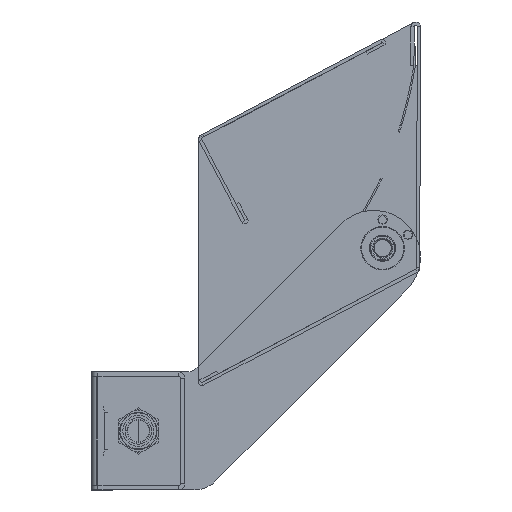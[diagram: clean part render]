
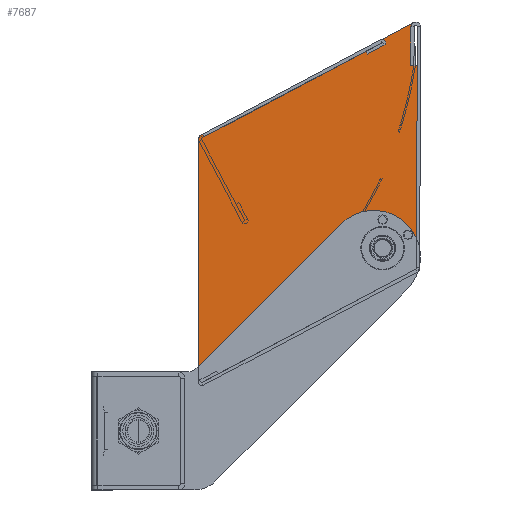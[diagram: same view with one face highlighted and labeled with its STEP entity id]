
A CAD part, left-side view. The second image highlights one B-rep face of the part: STEP entity #7687.
In plain terms, the highlighted planar face has unit normal (-1, 0, 0) as drawn and (0, 0, -1) by its records, which use the part's own axes.
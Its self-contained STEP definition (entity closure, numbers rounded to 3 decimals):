
#373=FACE_BOUND('',#1442,.T.);
#374=FACE_BOUND('',#1443,.T.);
#588=PLANE('',#8936);
#955=FACE_OUTER_BOUND('',#1441,.T.);
#1441=EDGE_LOOP('',(#6291,#6292,#6293,#6294,#6295,#6296,#6297,#6298,#6299,
#6300,#6301,#6302,#6303,#6304,#6305,#6306,#6307,#6308));
#1442=EDGE_LOOP('',(#6309));
#1443=EDGE_LOOP('',(#6310));
#2066=LINE('',#12886,#2705);
#2070=LINE('',#12898,#2709);
#2073=LINE('',#12904,#2712);
#2076=LINE('',#12911,#2715);
#2080=LINE('',#12919,#2719);
#2084=LINE('',#12931,#2723);
#2088=LINE('',#12943,#2727);
#2091=LINE('',#12949,#2730);
#2094=LINE('',#12955,#2733);
#2097=LINE('',#12961,#2736);
#2100=LINE('',#12966,#2739);
#2104=LINE('',#12973,#2743);
#2106=LINE('',#12980,#2745);
#2705=VECTOR('',#10686,10.);
#2709=VECTOR('',#10698,10.);
#2712=VECTOR('',#10703,10.);
#2715=VECTOR('',#10708,10.);
#2719=VECTOR('',#10714,10.);
#2723=VECTOR('',#10726,10.);
#2727=VECTOR('',#10738,10.);
#2730=VECTOR('',#10743,10.);
#2733=VECTOR('',#10748,10.);
#2736=VECTOR('',#10753,10.);
#2739=VECTOR('',#10758,10.);
#2743=VECTOR('',#10764,10.);
#2745=VECTOR('',#10772,10.);
#3078=CIRCLE('',#8902,1.5);
#3081=CIRCLE('',#8906,4.1);
#3082=CIRCLE('',#8908,1.5);
#3084=CIRCLE('',#8912,1.025);
#3086=CIRCLE('',#8919,1.5);
#3088=CIRCLE('',#8923,1.025);
#3091=CIRCLE('',#8935,0.5);
#3606=VERTEX_POINT('',#12864);
#3609=VERTEX_POINT('',#12872);
#3610=VERTEX_POINT('',#12876);
#3611=VERTEX_POINT('',#12877);
#3614=VERTEX_POINT('',#12885);
#3616=VERTEX_POINT('',#12891);
#3618=VERTEX_POINT('',#12897);
#3620=VERTEX_POINT('',#12903);
#3622=VERTEX_POINT('',#12909);
#3623=VERTEX_POINT('',#12910);
#3626=VERTEX_POINT('',#12918);
#3628=VERTEX_POINT('',#12924);
#3630=VERTEX_POINT('',#12930);
#3632=VERTEX_POINT('',#12936);
#3634=VERTEX_POINT('',#12942);
#3636=VERTEX_POINT('',#12948);
#3638=VERTEX_POINT('',#12954);
#3640=VERTEX_POINT('',#12960);
#3643=VERTEX_POINT('',#12971);
#3645=VERTEX_POINT('',#12979);
#4509=EDGE_CURVE('',#3606,#3606,#3078,.T.);
#4514=EDGE_CURVE('',#3609,#3609,#3081,.T.);
#4515=EDGE_CURVE('',#3610,#3611,#3082,.T.);
#4519=EDGE_CURVE('',#3611,#3614,#2066,.T.);
#4522=EDGE_CURVE('',#3614,#3616,#3084,.T.);
#4525=EDGE_CURVE('',#3616,#3618,#2070,.T.);
#4528=EDGE_CURVE('',#3618,#3620,#2073,.T.);
#4531=EDGE_CURVE('',#3622,#3623,#2076,.T.);
#4535=EDGE_CURVE('',#3623,#3626,#2080,.T.);
#4538=EDGE_CURVE('',#3626,#3628,#3086,.T.);
#4541=EDGE_CURVE('',#3628,#3630,#2084,.T.);
#4544=EDGE_CURVE('',#3630,#3632,#3088,.T.);
#4547=EDGE_CURVE('',#3632,#3634,#2088,.T.);
#4550=EDGE_CURVE('',#3634,#3636,#2091,.T.);
#4553=EDGE_CURVE('',#3636,#3638,#2094,.T.);
#4556=EDGE_CURVE('',#3638,#3640,#2097,.T.);
#4559=EDGE_CURVE('',#3640,#3610,#2100,.T.);
#4563=EDGE_CURVE('',#3643,#3620,#2104,.T.);
#4566=EDGE_CURVE('',#3622,#3645,#2106,.T.);
#4568=EDGE_CURVE('',#3645,#3643,#3091,.T.);
#6291=ORIENTED_EDGE('',*,*,#4528,.T.);
#6292=ORIENTED_EDGE('',*,*,#4563,.F.);
#6293=ORIENTED_EDGE('',*,*,#4568,.F.);
#6294=ORIENTED_EDGE('',*,*,#4566,.F.);
#6295=ORIENTED_EDGE('',*,*,#4531,.T.);
#6296=ORIENTED_EDGE('',*,*,#4535,.T.);
#6297=ORIENTED_EDGE('',*,*,#4538,.T.);
#6298=ORIENTED_EDGE('',*,*,#4541,.T.);
#6299=ORIENTED_EDGE('',*,*,#4544,.T.);
#6300=ORIENTED_EDGE('',*,*,#4547,.T.);
#6301=ORIENTED_EDGE('',*,*,#4550,.T.);
#6302=ORIENTED_EDGE('',*,*,#4553,.T.);
#6303=ORIENTED_EDGE('',*,*,#4556,.T.);
#6304=ORIENTED_EDGE('',*,*,#4559,.T.);
#6305=ORIENTED_EDGE('',*,*,#4515,.T.);
#6306=ORIENTED_EDGE('',*,*,#4519,.T.);
#6307=ORIENTED_EDGE('',*,*,#4522,.T.);
#6308=ORIENTED_EDGE('',*,*,#4525,.T.);
#6309=ORIENTED_EDGE('',*,*,#4509,.T.);
#6310=ORIENTED_EDGE('',*,*,#4514,.T.);
#7687=ADVANCED_FACE('',(#955,#373,#374),#588,.F.);
#8902=AXIS2_PLACEMENT_3D('',#12865,#10664,#10665);
#8906=AXIS2_PLACEMENT_3D('',#12874,#10674,#10675);
#8908=AXIS2_PLACEMENT_3D('',#12878,#10678,#10679);
#8912=AXIS2_PLACEMENT_3D('',#12892,#10691,#10692);
#8919=AXIS2_PLACEMENT_3D('',#12925,#10719,#10720);
#8923=AXIS2_PLACEMENT_3D('',#12937,#10731,#10732);
#8935=AXIS2_PLACEMENT_3D('',#12983,#10776,#10777);
#8936=AXIS2_PLACEMENT_3D('',#12984,#10778,#10779);
#10664=DIRECTION('center_axis',(0.,0.,1.));
#10665=DIRECTION('ref_axis',(1.,0.,0.));
#10674=DIRECTION('center_axis',(0.,0.,1.));
#10675=DIRECTION('ref_axis',(1.,0.,0.));
#10678=DIRECTION('center_axis',(0.,0.,-1.));
#10679=DIRECTION('ref_axis',(0.,-1.,0.));
#10686=DIRECTION('',(0.883,0.469,0.));
#10691=DIRECTION('center_axis',(0.,0.,1.));
#10692=DIRECTION('ref_axis',(1.,0.,0.));
#10698=DIRECTION('',(0.,-1.,0.));
#10703=DIRECTION('',(1.,0.,0.));
#10708=DIRECTION('',(-0.469,0.883,0.));
#10714=DIRECTION('',(-0.883,-0.469,0.));
#10719=DIRECTION('center_axis',(0.,0.,1.));
#10720=DIRECTION('ref_axis',(-0.469,0.883,0.));
#10726=DIRECTION('',(0.,1.,0.));
#10731=DIRECTION('center_axis',(0.,0.,1.));
#10732=DIRECTION('ref_axis',(-1.,0.,0.));
#10738=DIRECTION('',(0.,1.,0.));
#10743=DIRECTION('',(-1.,0.,0.));
#10748=DIRECTION('',(0.,1.,0.));
#10753=DIRECTION('',(-1.,0.,0.));
#10758=DIRECTION('',(0.,1.,0.));
#10764=DIRECTION('',(0.,1.,0.));
#10772=DIRECTION('',(0.883,0.469,0.));
#10776=DIRECTION('center_axis',(0.,0.,1.));
#10777=DIRECTION('ref_axis',(0.857,-0.515,0.));
#10778=DIRECTION('center_axis',(0.,0.,1.));
#10779=DIRECTION('ref_axis',(1.,0.,0.));
#12864=CARTESIAN_POINT('',(-12.5,-2.641,0.));
#12865=CARTESIAN_POINT('Origin',(-11.,-2.641,0.));
#12872=CARTESIAN_POINT('',(-15.1,6.609,0.));
#12874=CARTESIAN_POINT('Origin',(-11.,6.609,0.));
#12876=CARTESIAN_POINT('',(-70.516,41.153,0.));
#12877=CARTESIAN_POINT('',(-69.72,42.478,0.));
#12878=CARTESIAN_POINT('Origin',(-69.016,41.153,0.));
#12885=CARTESIAN_POINT('',(-0.506,79.279,0.));
#12886=CARTESIAN_POINT('',(-26.109,65.666,0.));
#12891=CARTESIAN_POINT('',(-1.05,78.374,0.));
#12892=CARTESIAN_POINT('Origin',(-0.025,78.374,0.));
#12897=CARTESIAN_POINT('',(-1.05,72.399,0.));
#12898=CARTESIAN_POINT('',(-1.05,46.81,0.));
#12903=CARTESIAN_POINT('',(0.,72.399,0.));
#12904=CARTESIAN_POINT('',(-17.659,72.399,0.));
#12909=CARTESIAN_POINT('',(-57.744,-30.703,0.));
#12910=CARTESIAN_POINT('',(-58.683,-28.937,0.));
#12911=CARTESIAN_POINT('',(-66.504,-14.228,0.));
#12918=CARTESIAN_POINT('',(-69.72,-34.806,0.));
#12919=CARTESIAN_POINT('',(-44.698,-21.501,0.));
#12924=CARTESIAN_POINT('',(-70.516,-36.13,0.));
#12925=CARTESIAN_POINT('Origin',(-69.016,-36.13,0.));
#12930=CARTESIAN_POINT('',(-70.516,-24.322,0.));
#12931=CARTESIAN_POINT('',(-70.516,-1.55,0.));
#12936=CARTESIAN_POINT('',(-68.466,-24.322,0.));
#12937=CARTESIAN_POINT('Origin',(-69.491,-24.322,0.));
#12942=CARTESIAN_POINT('',(-68.466,-18.347,0.));
#12943=CARTESIAN_POINT('',(-68.466,1.437,0.));
#12948=CARTESIAN_POINT('',(-69.516,-18.347,0.));
#12949=CARTESIAN_POINT('',(-52.417,-18.347,0.));
#12954=CARTESIAN_POINT('',(-69.516,40.653,0.));
#12955=CARTESIAN_POINT('',(-69.516,30.937,0.));
#12960=CARTESIAN_POINT('',(-70.516,40.653,0.));
#12961=CARTESIAN_POINT('',(-52.917,40.653,0.));
#12966=CARTESIAN_POINT('',(-70.516,31.187,0.));
#12971=CARTESIAN_POINT('',(0.,0.3,0.));
#12973=CARTESIAN_POINT('',(0.,0.,0.));
#12979=CARTESIAN_POINT('',(-0.265,-0.141,0.));
#12980=CARTESIAN_POINT('',(-70.636,-37.558,0.));
#12983=CARTESIAN_POINT('Origin',(-0.5,0.3,0.));
#12984=CARTESIAN_POINT('Origin',(-35.318,21.221,0.));
